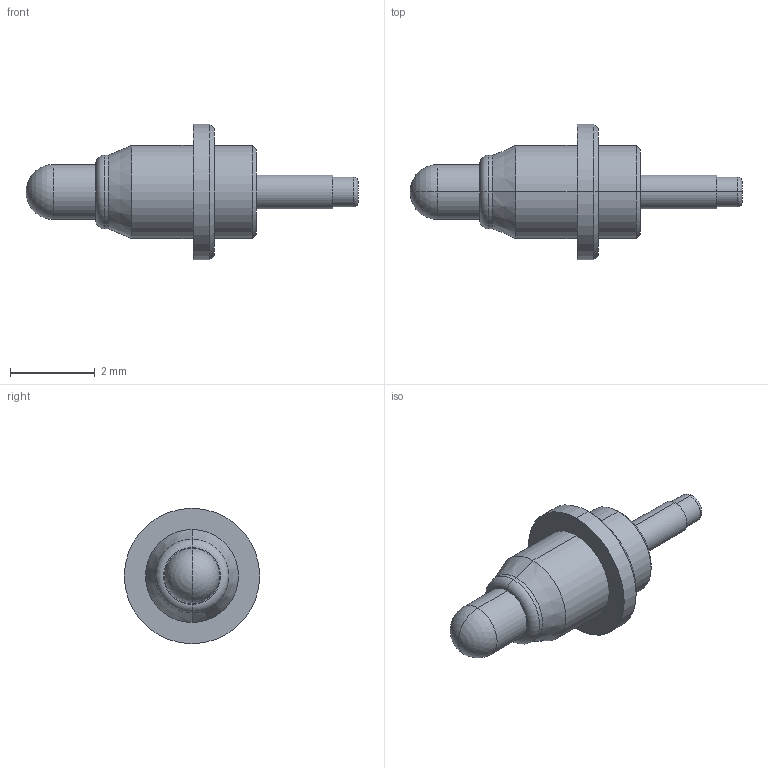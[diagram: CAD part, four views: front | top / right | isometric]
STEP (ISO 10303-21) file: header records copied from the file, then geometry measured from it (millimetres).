
FILE_DESCRIPTION((''),'2;1');
FILE_NAME('NC2363-01','2022-05-18T14:34:56',('Administrator'),(''),'CREO PARAMETRIC BY PTC INC, 2018400','CREO PARAMETRIC BY PTC INC, 2018400','');
FILE_SCHEMA(('CONFIG_CONTROL_DESIGN'));
Length unit declared in the file: millimetre
Products named in the file (1): NC2363-01
Bounding box: 7.85 x 3.2 x 3.2 mm (x, y, z)
Volume: 18.6 mm3; surface area: 51.6 mm2
Topology: 1 solids, 1 shells, 32 faces, 64 edges, 37 vertices
Faces by surface type: cylinder 14, plane 6, cone 6, torus 4, sphere 2
Entity records: 862 total; most frequent: DIRECTION 168, CARTESIAN_POINT 131, ORIENTED_EDGE 124, AXIS2_PLACEMENT_3D 74, EDGE_CURVE 62, CIRCLE 42, VERTEX_POINT 37, EDGE_LOOP 37
